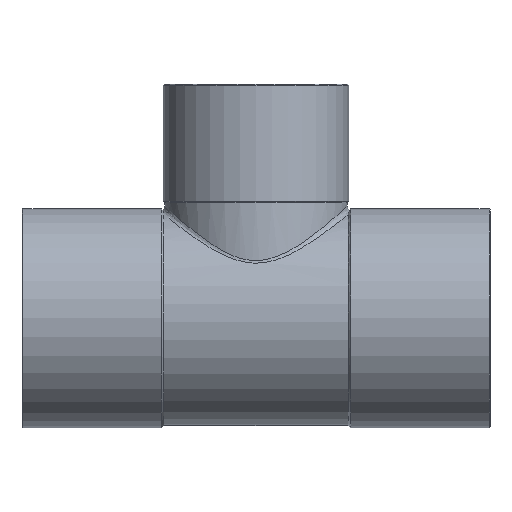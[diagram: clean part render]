
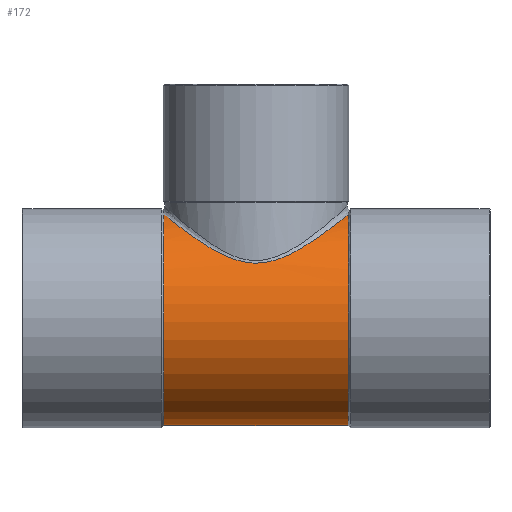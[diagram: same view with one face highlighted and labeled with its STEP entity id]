
A CAD part, top view. The second image highlights one B-rep face of the part: STEP entity #172.
In plain terms, the highlighted cylindrical face has radius 22 mm (diameter 44 mm), a partial arc.
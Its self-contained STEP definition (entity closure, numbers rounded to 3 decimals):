
#112=CARTESIAN_POINT('',(9.473,0.0,0.0));
#113=DIRECTION('',(1.0,0.0,0.0));
#114=DIRECTION('',(0.0,1.0,0.0));
#115=AXIS2_PLACEMENT_3D('',#112,#113,#114);
#116=CYLINDRICAL_SURFACE('',#115,22.);
#117=CARTESIAN_POINT('',(18.945,-22.,0.));
#118=VERTEX_POINT('',#117);
#119=CARTESIAN_POINT('',(-18.945,-22.0,0.));
#120=VERTEX_POINT('',#119);
#121=CARTESIAN_POINT('',(18.945,-22.,0.));
#122=DIRECTION('',(-1.0,0.0,0.0));
#123=VECTOR('',#122,37.89);
#124=LINE('',#121,#123);
#125=EDGE_CURVE('',#118,#120,#124,.T.);
#126=ORIENTED_EDGE('',*,*,#125,.F.);
#127=CARTESIAN_POINT('',(18.945,21.343,5.338));
#128=VERTEX_POINT('',#127);
#129=CARTESIAN_POINT('',(18.945,0.0,0.0));
#130=DIRECTION('',(1.0,0.0,0.0));
#131=DIRECTION('',(0.0,1.0,0.0));
#132=AXIS2_PLACEMENT_3D('',#129,#130,#131);
#133=CIRCLE('',#132,22.);
#134=EDGE_CURVE('',#128,#118,#133,.T.);
#135=ORIENTED_EDGE('',*,*,#134,.F.);
#136=CARTESIAN_POINT('',(-18.945,21.343,5.338));
#137=VERTEX_POINT('',#136);
#138=CARTESIAN_POINT('',(-18.945,21.343,5.338));
#139=CARTESIAN_POINT('',(-18.264,20.789,7.551));
#140=CARTESIAN_POINT('',(-17.17,19.907,9.576));
#141=CARTESIAN_POINT('',(-15.836,18.883,11.289));
#142=CARTESIAN_POINT('',(-13.994,17.47,13.653));
#143=CARTESIAN_POINT('',(-11.661,15.728,15.517));
#144=CARTESIAN_POINT('',(-8.978,14.173,16.827));
#145=CARTESIAN_POINT('',(-6.691,12.847,17.943));
#146=CARTESIAN_POINT('',(-4.042,11.596,18.698));
#147=CARTESIAN_POINT('',(-1.148,11.328,18.859));
#148=CARTESIAN_POINT('',(1.333,11.098,18.997));
#149=CARTESIAN_POINT('',(3.844,11.712,18.66));
#150=CARTESIAN_POINT('',(6.031,12.665,17.989));
#151=CARTESIAN_POINT('',(8.219,13.618,17.318));
#152=CARTESIAN_POINT('',(10.164,14.841,16.332));
#153=CARTESIAN_POINT('',(11.905,16.025,15.073));
#154=CARTESIAN_POINT('',(14.873,18.042,12.928));
#155=CARTESIAN_POINT('',(17.298,20.01,9.927));
#156=CARTESIAN_POINT('',(18.649,21.103,6.219));
#157=CARTESIAN_POINT('',(18.755,21.188,5.929));
#158=CARTESIAN_POINT('',(18.854,21.268,5.635));
#159=CARTESIAN_POINT('',(18.945,21.343,5.338));
#160=B_SPLINE_CURVE_WITH_KNOTS('',3,(#138,#139,#140,#141,#142,#143,#144,#145,#146,#147,#148,#149,#150,#151,#152,#153,#154,#155,#156,#157,#158,#159),.UNSPECIFIED.,.F.,.U.,(4,3,3,3,3,3,3,4),(3.611,4.299,5.248,6.057,6.75,7.444,8.626,8.718),.UNSPECIFIED.);
#161=EDGE_CURVE('',#137,#128,#160,.T.);
#162=ORIENTED_EDGE('',*,*,#161,.F.);
#163=CARTESIAN_POINT('',(-18.945,0.0,0.0));
#164=DIRECTION('',(1.0,0.0,0.0));
#165=DIRECTION('',(0.0,1.0,0.0));
#166=AXIS2_PLACEMENT_3D('',#163,#164,#165);
#167=CIRCLE('',#166,22.0);
#168=EDGE_CURVE('',#137,#120,#167,.T.);
#169=ORIENTED_EDGE('',*,*,#168,.T.);
#170=EDGE_LOOP('',(#126,#135,#162,#169));
#171=FACE_OUTER_BOUND('',#170,.T.);
#172=ADVANCED_FACE('',(#171),#116,.T.);
